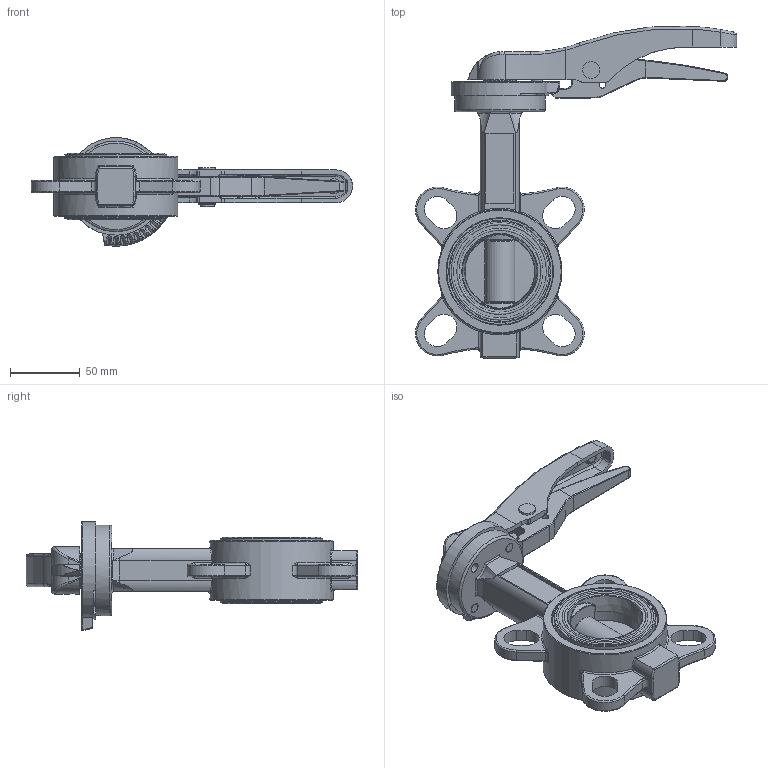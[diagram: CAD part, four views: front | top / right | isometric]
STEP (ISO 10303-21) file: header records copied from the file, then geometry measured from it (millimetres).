
FILE_DESCRIPTION (( 'STEP AP203' ), '1' );
FILE_NAME ('B9.100050L16.STEP', '2012-12-17T09:59:59', ( 'luca.saino' ), ( 'Hewlett-Packard Company' ), 'SwSTEP 2.0', 'SolidWorks 2012', '' );
FILE_SCHEMA (( 'CONFIG_CONTROL_DESIGN' ));
Products named in the file (1): B9.100050L16
Bounding box: 230.27 x 237.99 x 77.87 mm (x, y, z)
Volume: 453394.9 mm3; surface area: 104939.8 mm2
Topology: 1 solids, 3 shells, 1186 faces, 3043 edges, 1905 vertices
Faces by surface type: plane 425, cylinder 313, bspline 204, torus 160, cone 62, sphere 22
Full cylindrical faces by diameter (mm): 1.5 x2, 4 x2, 5 x2, 7 x4, 8 x3, 10.2 x4, 12 x1, 13 x2, 15 x2, 65 x1, 70 x1, 73.3 x2, 76.1 x2, 89 x1
Entity records: 44282 total; most frequent: CARTESIAN_POINT 17378, ORIENTED_EDGE 5842, DIRECTION 5163, EDGE_CURVE 2921, AXIS2_PLACEMENT_3D 1931, VERTEX_POINT 1871, EDGE_LOOP 1340, VECTOR 1301
